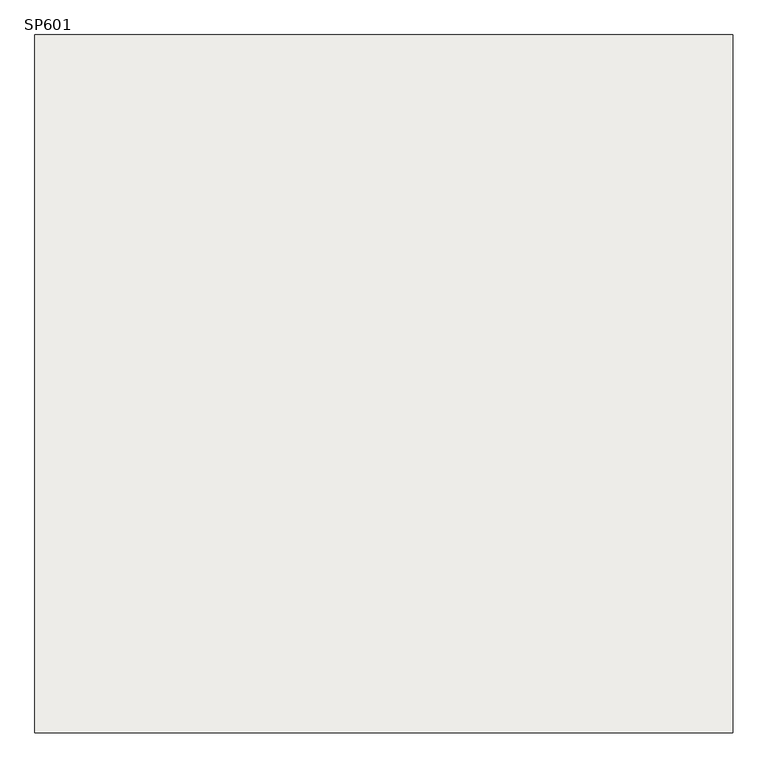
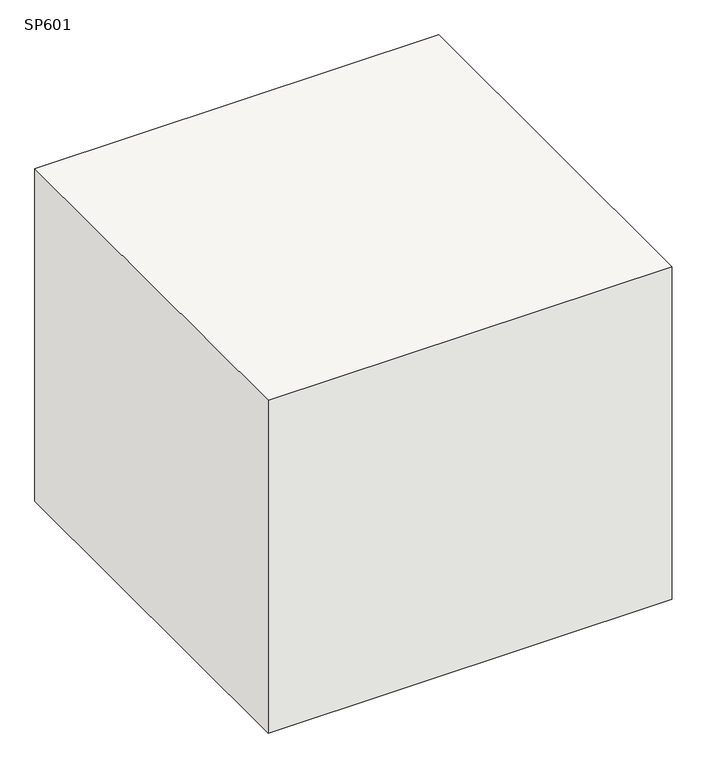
"""IFC4 building model written with IfcOpenShell, lengths in millimetres: slab geometry, 柱形_SP : SP601."""

import ifcopenshell
import ifcopenshell.guid

model = None  # the IFC model being written
_history = None  # IfcOwnerHistory: only IFC2X3 demands one
_inside = {}  # id of a spatial element -> (the spatial element, [elements in it])
_under = {}  # id of a project, library or spatial element -> (it, [spatial elements below it])
_declared = {}  # id of a project -> (the project, [libraries it declares])
_typed = {}  # id of a type object -> (the type object, [elements of that type])
_made_of = {}  # id of a material, layer set ... -> (it, [elements and type objects made of it])


def new_model(schema):
    """Start an empty IFC model of exactly this schema.

    Asked for "IFC4X3", IfcOpenShell would pick the latest addendum, in which some entities
    have other attributes; the version numbers below select the first issue.
    IFC2X3 requires an IfcOwnerHistory on every rooted entity: one is made here for all.
    """
    global model, _history
    if schema == "IFC4X3":
        model = ifcopenshell.file(schema_version=(4, 3, 0, 0))
    else:
        model = ifcopenshell.file(schema=schema)
    _inside.clear()
    _under.clear()
    _declared.clear()
    _typed.clear()
    _made_of.clear()
    _history = None
    if model.schema == "IFC2X3":
        org = make("IfcOrganization", Name="unknown")
        user = make(
            "IfcPersonAndOrganization",
            ThePerson=make("IfcPerson", FamilyName="unknown"),
            TheOrganization=org,
        )
        app = make(
            "IfcApplication",
            ApplicationDeveloper=org,
            Version="unknown",
            ApplicationFullName="unknown",
            ApplicationIdentifier="unknown",
        )
        _history = make(
            "IfcOwnerHistory",
            OwningUser=user,
            OwningApplication=app,
            ChangeAction="ADDED",
            CreationDate=0,
        )
    return model


def make(cls, **values):
    """One entity of the class cls with the attributes given. An attribute that is None is left unset."""
    return model.create_entity(
        cls, **{name: value for name, value in values.items() if value is not None}
    )


def rooted(cls, **values):
    """An entity with a GlobalId (a new one), such as an element, a storey or a relation."""
    return make(cls, GlobalId=ifcopenshell.guid.new(), OwnerHistory=_history, **values)


def si_unit(unit_type, name, prefix=None):
    """IfcSIUnit, for example si_unit("LENGTHUNIT", "METRE", prefix="MILLI")."""
    return make("IfcSIUnit", UnitType=unit_type, Prefix=prefix, Name=name)


def assignment(units):
    """IfcUnitAssignment: the units of a project."""
    return None if units is None else make("IfcUnitAssignment", Units=units)


def point(xyz):
    """IfcCartesianPoint."""
    return None if xyz is None else make("IfcCartesianPoint", Coordinates=xyz)


def direction(xyz):
    """IfcDirection."""
    return None if xyz is None else make("IfcDirection", DirectionRatios=xyz)


def frame(location, z_axis=None, x_axis=None):
    """IfcAxis2Placement3D, a coordinate frame: its origin and axes. An axis left out is left unset."""
    return make(
        "IfcAxis2Placement3D",
        Location=point(location),
        Axis=direction(z_axis),
        RefDirection=direction(x_axis),
    )


def origin():
    """The frame at (0, 0, 0) with its axes left unset."""
    return frame((0.0, 0.0, 0.0))


def place(relative_to, where):
    """IfcLocalPlacement: puts the frame where relative to a parent placement (None: the world)."""
    return make(
        "IfcLocalPlacement", PlacementRelTo=relative_to, RelativePlacement=where
    )


def context(
    kind, dimensions, precision=None, world=None, true_north=None, identifier=None
):
    """IfcGeometricRepresentationContext, for example the 3D "Model" context."""
    return make(
        "IfcGeometricRepresentationContext",
        ContextIdentifier=identifier,
        ContextType=kind,
        CoordinateSpaceDimension=dimensions,
        Precision=precision,
        WorldCoordinateSystem=world,
        TrueNorth=true_north,
    )


def project(units=None, contexts=None):
    """IfcProject with its units and contexts."""
    return rooted(
        "IfcProject",
        Name="project",
        RepresentationContexts=contexts,
        UnitsInContext=assignment(units),
    )


def spatial(cls, under=None, at=None, **own):
    """A site, building, storey or space (cls), placed at a placement, below another one or the project."""
    s = rooted(cls, ObjectPlacement=at, **own)
    if under is not None:
        _under.setdefault(under.id(), (under, []))[1].append(s)
    return s


def polyline(points):
    """IfcPolyline through the points."""
    return make("IfcPolyline", Points=[point(p) for p in points])


def outline(outer, holes=None, kind="AREA"):
    """IfcArbitraryClosedProfileDef: a profile drawn as a closed curve; with holes, ...WithVoids."""
    if holes is None:
        return make("IfcArbitraryClosedProfileDef", ProfileType=kind, OuterCurve=outer)
    return make(
        "IfcArbitraryProfileDefWithVoids",
        ProfileType=kind,
        OuterCurve=outer,
        InnerCurves=holes,
    )


def extrude(swept, where, along, depth):
    """IfcExtrudedAreaSolid: the profile swept, set in the frame where, extruded along a direction by depth."""
    return make(
        "IfcExtrudedAreaSolid",
        SweptArea=swept,
        Position=where,
        ExtrudedDirection=direction(along),
        Depth=depth,
    )


def shape(context_of_items, identifier, shape_type, items):
    """IfcShapeRepresentation: the items that make up one representation, for example the "Body"."""
    return make(
        "IfcShapeRepresentation",
        ContextOfItems=context_of_items,
        RepresentationIdentifier=identifier,
        RepresentationType=shape_type,
        Items=items,
    )


def source(mapping_origin, context_of_items, identifier, shape_type, items):
    """IfcRepresentationMap: a shape defined once, which mapped items show again and again."""
    return make(
        "IfcRepresentationMap",
        MappingOrigin=mapping_origin,
        MappedRepresentation=shape(context_of_items, identifier, shape_type, items),
    )


def transform(
    local_origin,
    x_axis=None,
    y_axis=None,
    z_axis=None,
    scale=None,
    scale2=None,
    scale3=None,
    uniform=True,
):
    """IfcCartesianTransformationOperator3D, or its non-uniform kind. x_axis, y_axis, z_axis: its Axis1, 2, 3."""
    if uniform:
        return make(
            "IfcCartesianTransformationOperator3D",
            Axis1=direction(x_axis),
            Axis2=direction(y_axis),
            LocalOrigin=point(local_origin),
            Scale=scale,
            Axis3=direction(z_axis),
        )
    return make(
        "IfcCartesianTransformationOperator3DnonUniform",
        Axis1=direction(x_axis),
        Axis2=direction(y_axis),
        LocalOrigin=point(local_origin),
        Scale=scale,
        Axis3=direction(z_axis),
        Scale2=scale2,
        Scale3=scale3,
    )


def mapped(mapping_source, mapping_target):
    """IfcMappedItem: shows the shape of a source again, moved by a transform."""
    return make(
        "IfcMappedItem", MappingSource=mapping_source, MappingTarget=mapping_target
    )


def made_of(thing, what):
    """Note that an element or type object is made of a material, layer set ...; save() writes the relation."""
    if what is not None:
        _made_of.setdefault(what.id(), (what, []))[1].append(thing)
    return thing


def element(
    cls,
    number,
    at=None,
    inside=None,
    cuts=None,
    type_object=None,
    material=None,
    context=None,
    identifier="Body",
    shape_type=None,
    held_by="IfcProductDefinitionShape",
    body=None,
    shapes=None,
    **own,
):
    """One element of the class cls, such as IfcWall. Its Tag is "e" and its number.

    at: its placement. inside: the storey or other place that contains it. cuts: it is an
    opening in that element (IfcRelVoidsElement). A single representation is given by context,
    identifier, shape_type and body (its items); several are given by shapes. held_by: the class
    of the entity that holds the representations. save() writes the other relations.
    """
    e = rooted(cls, Tag="e%d" % number, ObjectPlacement=at, **own)
    if body is not None:
        shapes = [shape(context, identifier, shape_type, body)]
    if shapes is not None:
        e.Representation = make(held_by, Representations=shapes)
    if inside is not None:
        _inside.setdefault(inside.id(), (inside, []))[1].append(e)
    if cuts is not None:
        rooted(
            "IfcRelVoidsElement", RelatingBuildingElement=cuts, RelatedOpeningElement=e
        )
    if type_object is not None:
        _typed.setdefault(type_object.id(), (type_object, []))[1].append(e)
    return made_of(e, material)


def aggregate(whole, parts):
    """IfcRelAggregates: a whole, such as a stair, and the parts it consists of."""
    return rooted("IfcRelAggregates", RelatingObject=whole, RelatedObjects=parts)


def save(model, path):
    """Write the relations noted so far, then the file.

    IfcRelAggregates (storeys below a building ...), IfcRelContainedInSpatialStructure (elements
    in a storey), IfcRelDefinesByType, IfcRelAssociatesMaterial and IfcRelDeclares: one each for
    every whole, place, type object, material and project.
    """
    for whole, parts in _under.values():
        aggregate(whole, parts)
    for where, things in _inside.values():
        rooted(
            "IfcRelContainedInSpatialStructure",
            RelatedElements=things,
            RelatingStructure=where,
        )
    for kind, things in _typed.values():
        rooted("IfcRelDefinesByType", RelatedObjects=things, RelatingType=kind)
    for what, things in _made_of.values():
        rooted("IfcRelAssociatesMaterial", RelatedObjects=things, RelatingMaterial=what)
    for by, libraries in _declared.values():
        rooted("IfcRelDeclares", RelatingContext=by, RelatedDefinitions=libraries)
    model.write(path)


def sp601_9517f7fc(model_context):
    return source(origin(), model_context, "Body", "SweptSolid", [
        extrude(outline(polyline([(545.0, 545.0), (545.0, -545.0), (-545.0, -545.0), (-545.0, 545.0), (545.0, 545.0)])), frame((0.0, 0.0, -950.0), z_axis=(0.0, 0.0, 1.0), x_axis=(1.0, 0.0, 0.0)), (0.0, 0.0, 1.0), 950.0),
    ])


if __name__ == "__main__":
    model = new_model("IFC4")
    model_context = context("Model", 3, world=origin())
    ifc_project = project(units=[si_unit("LENGTHUNIT", "METRE", prefix="MILLI")], contexts=[model_context])
    site = spatial("IfcSite", under=ifc_project)
    building = spatial("IfcBuilding", under=site)
    placement = place(None, origin())
    sp601_shape = sp601_9517f7fc(model_context)
    element("IfcSlab", 1, ObjectType="柱形_SP : SP601", at=placement, inside=building, context=model_context, shape_type="MappedRepresentation", body=[
        mapped(sp601_shape, transform((0.0, 0.0, 0.0), x_axis=(1.0, 0.0, 0.0), y_axis=(0.0, 1.0, 0.0), z_axis=(0.0, 0.0, 1.0))),
    ])
    save(model, "model.ifc")
